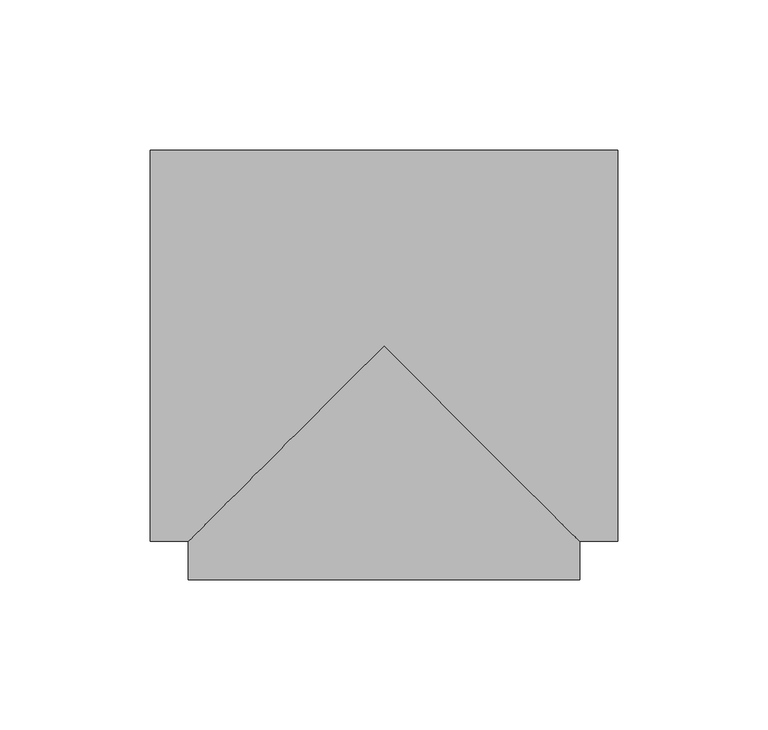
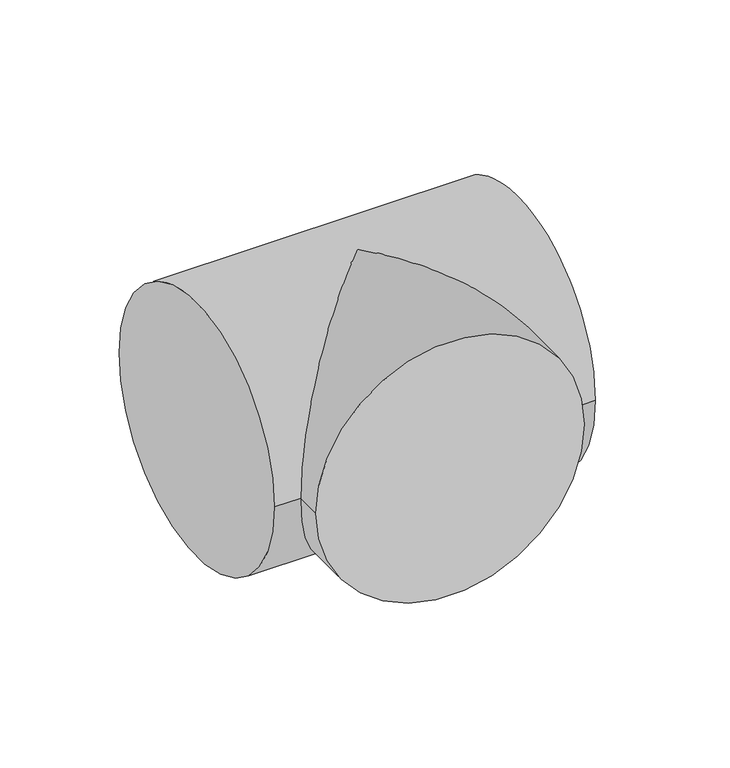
"""IFC4 building model written with IfcOpenShell, lengths in millimetres: pipe fitting geometry, M_Te - Genérica : Estándar."""

import ifcopenshell
import ifcopenshell.guid

model = None  # the IFC model being written
_history = None  # IfcOwnerHistory: only IFC2X3 demands one
_inside = {}  # id of a spatial element -> (the spatial element, [elements in it])
_under = {}  # id of a project, library or spatial element -> (it, [spatial elements below it])
_declared = {}  # id of a project -> (the project, [libraries it declares])
_typed = {}  # id of a type object -> (the type object, [elements of that type])
_made_of = {}  # id of a material, layer set ... -> (it, [elements and type objects made of it])


def new_model(schema):
    """Start an empty IFC model of exactly this schema.

    Asked for "IFC4X3", IfcOpenShell would pick the latest addendum, in which some entities
    have other attributes; the version numbers below select the first issue.
    IFC2X3 requires an IfcOwnerHistory on every rooted entity: one is made here for all.
    """
    global model, _history
    if schema == "IFC4X3":
        model = ifcopenshell.file(schema_version=(4, 3, 0, 0))
    else:
        model = ifcopenshell.file(schema=schema)
    _inside.clear()
    _under.clear()
    _declared.clear()
    _typed.clear()
    _made_of.clear()
    _history = None
    if model.schema == "IFC2X3":
        org = make("IfcOrganization", Name="unknown")
        user = make(
            "IfcPersonAndOrganization",
            ThePerson=make("IfcPerson", FamilyName="unknown"),
            TheOrganization=org,
        )
        app = make(
            "IfcApplication",
            ApplicationDeveloper=org,
            Version="unknown",
            ApplicationFullName="unknown",
            ApplicationIdentifier="unknown",
        )
        _history = make(
            "IfcOwnerHistory",
            OwningUser=user,
            OwningApplication=app,
            ChangeAction="ADDED",
            CreationDate=0,
        )
    return model


def make(cls, **values):
    """One entity of the class cls with the attributes given. An attribute that is None is left unset."""
    return model.create_entity(
        cls, **{name: value for name, value in values.items() if value is not None}
    )


def rooted(cls, **values):
    """An entity with a GlobalId (a new one), such as an element, a storey or a relation."""
    return make(cls, GlobalId=ifcopenshell.guid.new(), OwnerHistory=_history, **values)


def si_unit(unit_type, name, prefix=None):
    """IfcSIUnit, for example si_unit("LENGTHUNIT", "METRE", prefix="MILLI")."""
    return make("IfcSIUnit", UnitType=unit_type, Prefix=prefix, Name=name)


def assignment(units):
    """IfcUnitAssignment: the units of a project."""
    return None if units is None else make("IfcUnitAssignment", Units=units)


def point(xyz):
    """IfcCartesianPoint."""
    return None if xyz is None else make("IfcCartesianPoint", Coordinates=xyz)


def direction(xyz):
    """IfcDirection."""
    return None if xyz is None else make("IfcDirection", DirectionRatios=xyz)


def frame(location, z_axis=None, x_axis=None):
    """IfcAxis2Placement3D, a coordinate frame: its origin and axes. An axis left out is left unset."""
    return make(
        "IfcAxis2Placement3D",
        Location=point(location),
        Axis=direction(z_axis),
        RefDirection=direction(x_axis),
    )


def origin():
    """The frame at (0, 0, 0) with its axes left unset."""
    return frame((0.0, 0.0, 0.0))


def place(relative_to, where):
    """IfcLocalPlacement: puts the frame where relative to a parent placement (None: the world)."""
    return make(
        "IfcLocalPlacement", PlacementRelTo=relative_to, RelativePlacement=where
    )


def context(
    kind, dimensions, precision=None, world=None, true_north=None, identifier=None
):
    """IfcGeometricRepresentationContext, for example the 3D "Model" context."""
    return make(
        "IfcGeometricRepresentationContext",
        ContextIdentifier=identifier,
        ContextType=kind,
        CoordinateSpaceDimension=dimensions,
        Precision=precision,
        WorldCoordinateSystem=world,
        TrueNorth=true_north,
    )


def project(units=None, contexts=None):
    """IfcProject with its units and contexts."""
    return rooted(
        "IfcProject",
        Name="project",
        RepresentationContexts=contexts,
        UnitsInContext=assignment(units),
    )


def spatial(cls, under=None, at=None, **own):
    """A site, building, storey or space (cls), placed at a placement, below another one or the project."""
    s = rooted(cls, ObjectPlacement=at, **own)
    if under is not None:
        _under.setdefault(under.id(), (under, []))[1].append(s)
    return s


def circle_curve(where, radius):
    """IfcCircle in the frame where."""
    return make("IfcCircle", Position=where, Radius=radius)


def ellipse_curve(where, semi_axis1, semi_axis2):
    """IfcEllipse in the frame where."""
    return make(
        "IfcEllipse", Position=where, SemiAxis1=semi_axis1, SemiAxis2=semi_axis2
    )


def shape(context_of_items, identifier, shape_type, items):
    """IfcShapeRepresentation: the items that make up one representation, for example the "Body"."""
    return make(
        "IfcShapeRepresentation",
        ContextOfItems=context_of_items,
        RepresentationIdentifier=identifier,
        RepresentationType=shape_type,
        Items=items,
    )


def source(mapping_origin, context_of_items, identifier, shape_type, items):
    """IfcRepresentationMap: a shape defined once, which mapped items show again and again."""
    return make(
        "IfcRepresentationMap",
        MappingOrigin=mapping_origin,
        MappedRepresentation=shape(context_of_items, identifier, shape_type, items),
    )


def transform(
    local_origin,
    x_axis=None,
    y_axis=None,
    z_axis=None,
    scale=None,
    scale2=None,
    scale3=None,
    uniform=True,
):
    """IfcCartesianTransformationOperator3D, or its non-uniform kind. x_axis, y_axis, z_axis: its Axis1, 2, 3."""
    if uniform:
        return make(
            "IfcCartesianTransformationOperator3D",
            Axis1=direction(x_axis),
            Axis2=direction(y_axis),
            LocalOrigin=point(local_origin),
            Scale=scale,
            Axis3=direction(z_axis),
        )
    return make(
        "IfcCartesianTransformationOperator3DnonUniform",
        Axis1=direction(x_axis),
        Axis2=direction(y_axis),
        LocalOrigin=point(local_origin),
        Scale=scale,
        Axis3=direction(z_axis),
        Scale2=scale2,
        Scale3=scale3,
    )


def mapped(mapping_source, mapping_target):
    """IfcMappedItem: shows the shape of a source again, moved by a transform."""
    return make(
        "IfcMappedItem", MappingSource=mapping_source, MappingTarget=mapping_target
    )


def made_of(thing, what):
    """Note that an element or type object is made of a material, layer set ...; save() writes the relation."""
    if what is not None:
        _made_of.setdefault(what.id(), (what, []))[1].append(thing)
    return thing


def element(
    cls,
    number,
    at=None,
    inside=None,
    cuts=None,
    type_object=None,
    material=None,
    context=None,
    identifier="Body",
    shape_type=None,
    held_by="IfcProductDefinitionShape",
    body=None,
    shapes=None,
    **own,
):
    """One element of the class cls, such as IfcWall. Its Tag is "e" and its number.

    at: its placement. inside: the storey or other place that contains it. cuts: it is an
    opening in that element (IfcRelVoidsElement). A single representation is given by context,
    identifier, shape_type and body (its items); several are given by shapes. held_by: the class
    of the entity that holds the representations. save() writes the other relations.
    """
    e = rooted(cls, Tag="e%d" % number, ObjectPlacement=at, **own)
    if body is not None:
        shapes = [shape(context, identifier, shape_type, body)]
    if shapes is not None:
        e.Representation = make(held_by, Representations=shapes)
    if inside is not None:
        _inside.setdefault(inside.id(), (inside, []))[1].append(e)
    if cuts is not None:
        rooted(
            "IfcRelVoidsElement", RelatingBuildingElement=cuts, RelatedOpeningElement=e
        )
    if type_object is not None:
        _typed.setdefault(type_object.id(), (type_object, []))[1].append(e)
    return made_of(e, material)


def aggregate(whole, parts):
    """IfcRelAggregates: a whole, such as a stair, and the parts it consists of."""
    return rooted("IfcRelAggregates", RelatingObject=whole, RelatedObjects=parts)


def save(model, path):
    """Write the relations noted so far, then the file.

    IfcRelAggregates (storeys below a building ...), IfcRelContainedInSpatialStructure (elements
    in a storey), IfcRelDefinesByType, IfcRelAssociatesMaterial and IfcRelDeclares: one each for
    every whole, place, type object, material and project.
    """
    for whole, parts in _under.values():
        aggregate(whole, parts)
    for where, things in _inside.values():
        rooted(
            "IfcRelContainedInSpatialStructure",
            RelatedElements=things,
            RelatingStructure=where,
        )
    for kind, things in _typed.values():
        rooted("IfcRelDefinesByType", RelatedObjects=things, RelatingType=kind)
    for what, things in _made_of.values():
        rooted("IfcRelAssociatesMaterial", RelatedObjects=things, RelatingMaterial=what)
    for by, libraries in _declared.values():
        rooted("IfcRelDeclares", RelatingContext=by, RelatedDefinitions=libraries)
    model.write(path)


def plane_surface(at):
    """IfcPlane: the flat surface through the origin of the frame at, square to its z axis."""
    return make("IfcPlane", Position=at)


def cylinder_surface(at, radius):
    """IfcCylindricalSurface: all points at the distance radius from the z axis of the frame at."""
    return make("IfcCylindricalSurface", Position=at, Radius=radius)


def advanced_brep(points, edges, surfaces, faces):
    """IfcAdvancedBrep: a solid bounded by faces that lie on surfaces and meet in shared edges.

    An edge is (start, end): straight between two places in points (the first is 0);
    or (start, end, curve); or (start, end, curve, False) where it runs against its curve.
    A face is (place in surfaces, loops), or (place, loops, False) where it looks against
    its surface's normal. A loop lists edges by number (the first is 1), with a minus sign
    where the edge is run from its end to its start. The first loop is the outer one.
    """
    corners = [point(p) for p in points]
    vertices = [make("IfcVertexPoint", VertexGeometry=c) for c in corners]
    made = []
    for start, end, *more in edges:
        made.append(
            make(
                "IfcEdgeCurve",
                EdgeStart=vertices[start],
                EdgeEnd=vertices[end],
                EdgeGeometry=more[0] if more else make("IfcPolyline", Points=[corners[start], corners[end]]),
                SameSense=more[1] if len(more) > 1 else True,
            )
        )
    hull = []
    for where, loops, *sense in faces:
        bounds = []
        for j, loop in enumerate(loops):
            ring = [make("IfcOrientedEdge", EdgeElement=made[abs(k) - 1], Orientation=k > 0) for k in loop]
            bounds.append(
                make(
                    "IfcFaceOuterBound" if j == 0 else "IfcFaceBound",
                    Bound=make("IfcEdgeLoop", EdgeList=ring),
                    Orientation=True,
                )
            )
        hull.append(make("IfcAdvancedFace", Bounds=bounds, FaceSurface=surfaces[where], SameSense=sense[0] if sense else True))
    return make("IfcAdvancedBrep", Outer=make("IfcClosedShell", CfsFaces=hull))


def pipe_fitting_f0bc9a91(model_context):
    return source(origin(), model_context, "Body", "AdvancedBrep", [
        advanced_brep(
        [(-77.7875, -65.0875, 0.0), (-77.7875, 65.0875, 0.0), (77.7875, -65.0875, 0.0), (77.7875, 65.0875, 0.0), (-65.0866022, -65.0875, 0.0), (0.0, 0.0, 65.0875), (65.0883978, -65.0875, 0.0), (0.0, 0.0, -65.0875), (-65.0864271, -77.7883978, 0.0), (65.0885729, -77.7866022, 0.0)],
        [
            (0, 1, circle_curve(frame((-77.7875, 0.0, 0.0), z_axis=(-1.0, 0.0, 0.0), x_axis=(0.0, 1.0, 0.0)), 65.0875)),
            (1, 0, circle_curve(frame((-77.7875, 0.0, 0.0), z_axis=(-1.0, 0.0, 0.0), x_axis=(0.0, 1.0, 0.0)), 65.0875)),
            (2, 3, circle_curve(frame((77.7875, 0.0, 0.0), z_axis=(1.0, 0.0, 0.0), x_axis=(0.0, 1.0, 0.0)), 65.0875)),
            (3, 2, circle_curve(frame((77.7875, 0.0, 0.0), z_axis=(1.0, 0.0, 0.0), x_axis=(0.0, 1.0, 0.0)), 65.0875)),
            (0, 4),
            (4, 5, ellipse_curve(frame((0.0, 0.0, 0.0), z_axis=(-0.7071116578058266, 0.7071019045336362, 0.0), x_axis=(-0.7071019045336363, -0.7071116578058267, 0.0)), 92.0469904, 65.0875)),
            (5, 6, ellipse_curve(frame((0.0, 0.0, 0.0), z_axis=(0.7071019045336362, 0.7071116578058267, 0.0), x_axis=(-0.7071116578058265, 0.7071019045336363, 0.0)), 92.0482601, 65.0875)),
            (6, 2),
            (3, 1),
            (6, 7, ellipse_curve(frame((0.0, 0.0, 0.0), z_axis=(0.7071019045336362, 0.7071116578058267, 0.0), x_axis=(-0.7071116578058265, 0.7071019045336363, 0.0)), 92.0482601, 65.0875)),
            (7, 4, ellipse_curve(frame((0.0, 0.0, 0.0), z_axis=(-0.7071116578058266, 0.7071019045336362, 0.0), x_axis=(-0.7071019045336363, -0.7071116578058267, 0.0)), 92.0469904, 65.0875)),
            (8, 9, circle_curve(frame((0.0010729, -77.7875, 0.0), z_axis=(1.3793209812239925e-05, -0.9999999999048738, 0.0), x_axis=(0.9999999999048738, 1.3793209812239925e-05, 0.0)), 65.0875)),
            (9, 8, circle_curve(frame((0.0010729, -77.7875, 0.0), z_axis=(1.3793209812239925e-05, -0.9999999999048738, 0.0), x_axis=(0.9999999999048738, 1.3793209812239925e-05, 0.0)), 65.0875)),
            (9, 6),
            (4, 8),
        ],
        [
            plane_surface(frame((-77.7875, 0.0, 0.0), z_axis=(-1.0, 0.0, 0.0), x_axis=(0.0, 0.0, 1.0))),
            plane_surface(frame((77.7875, 0.0, 0.0), z_axis=(1.0, 0.0, 0.0), x_axis=(0.0, 0.0, 1.0))),
            cylinder_surface(frame((-77.7875, 0.0, 0.0), z_axis=(-1.0, 0.0, 0.0), x_axis=(0.0, 1.0, 0.0)), 65.0875),
            plane_surface(frame((0.0010729, -77.7875, 0.0), z_axis=(1.379320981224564e-05, -0.9999999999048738, 0.0), x_axis=(0.0, 0.0, 1.0))),
            cylinder_surface(frame((0.0, 0.0, 0.0), z_axis=(-1.3793209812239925e-05, 0.9999999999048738, 0.0), x_axis=(0.9999999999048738, 1.3793209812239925e-05, 0.0)), 65.0875),
        ],
        [
            (0, [[1, 2]]),
            (1, [[3, 4]]),
            (2, [[-1, 5, 6, 7, 8, -4, 9]]),
            (2, [[-2, -9, -3, -8, 10, 11, -5]]),
            (3, [[12, 13]]),
            (4, [[-13, 14, -7, -6, 15]]),
            (4, [[-12, -15, -11, -10, -14]]),
        ],
    ),
    ])


if __name__ == "__main__":
    model = new_model("IFC4")
    model_context = context("Model", 3, world=origin())
    ifc_project = project(units=[si_unit("LENGTHUNIT", "METRE", prefix="MILLI")], contexts=[model_context])
    site = spatial("IfcSite", under=ifc_project)
    building = spatial("IfcBuilding", under=site)
    placement = place(None, origin())
    pipe_fitting_shape = pipe_fitting_f0bc9a91(model_context)
    element("IfcPipeFitting", 1, ObjectType="M_Te - Genérica : Estándar", at=placement, inside=building, context=model_context, shape_type="MappedRepresentation", body=[
        mapped(pipe_fitting_shape, transform((0.0, 0.0, 0.0), x_axis=(1.0, 0.0, 0.0), y_axis=(0.0, 1.0, 0.0), z_axis=(0.0, 0.0, 1.0))),
    ])
    save(model, "model.ifc")
